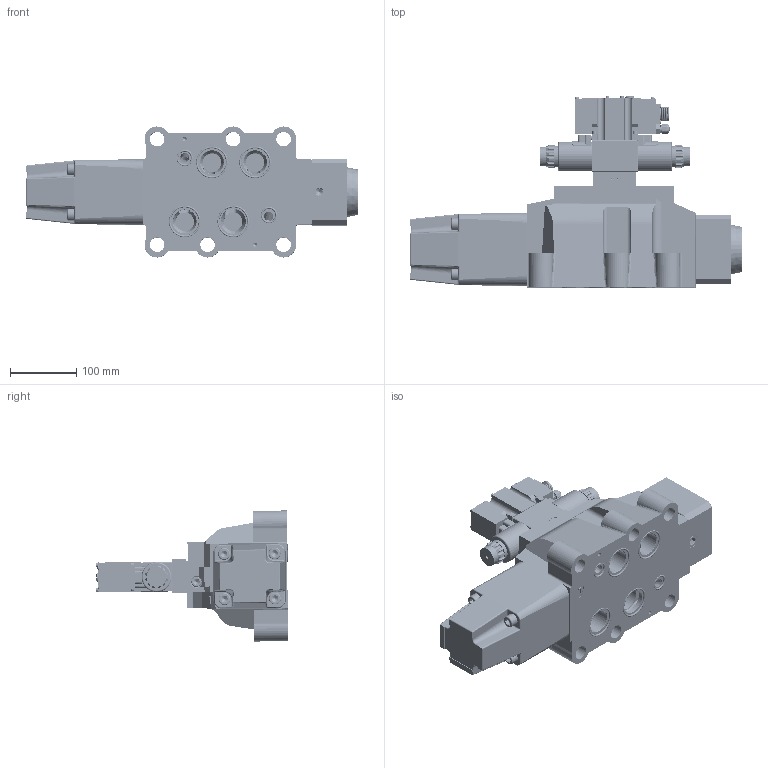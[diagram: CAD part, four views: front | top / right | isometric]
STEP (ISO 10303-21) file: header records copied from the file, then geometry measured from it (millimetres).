
FILE_DESCRIPTION (( 'STEP AP203' ), '1' );
FILE_NAME ('4WRZE32.STEP', '2024-10-09T02:40:09', ( '' ), ( '' ), 'SwSTEP 2.0', 'SolidWorks 2024', '' );
FILE_SCHEMA (( 'CONFIG_CONTROL_DESIGN' ));
Length unit declared in the file: millimetre
Products named in the file (19): 3DREPE6; M12X60_GB_FASTENER_SCREWS_HSHCS M12X60-C; 410269; 10x1.5; ZM6x1; 415036A; M12x120_GB_FASTENER_SCREWS_HSHCS M12X120-C; ZDR6DPO; 19x3; ZG3-8; 42.2x3; 4131201A; 412040; M5X70_GB_FASTENER_SCREWS_HSHCS M5X50-C; 412198A; 411175; 4WRZE32; 66x3; 097483
Assembly tree (36 placements, depth 2):
  4WRZE32
    411175
    66x3  x2
    ZG3-8  x3
    42.2x3  x4
    19x3  x2
    412040
    412198A
    410269
    10x1.5
    M12x120_GB_FASTENER_SCREWS_HSHCS M12X120-C  x4
    M12X60_GB_FASTENER_SCREWS_HSHCS M12X60-C  x4
    ZDR6DPO
    3DREPE6
    M5X70_GB_FASTENER_SCREWS_HSHCS M5X50-C  x4
    4131201A
    415036A  x2
    097483
    ZM6x1  x2
Bounding box: 500 x 289.65 x 197.44 mm (x, y, z)
Volume: 5924562.5 mm3; surface area: 892273.7 mm2
Topology: 86 solids, 86 shells, 4172 faces, 10493 edges, 6527 vertices
Faces by surface type: cylinder 1696, plane 1430, cone 485, bspline 369, torus 174, sphere 18
Entity records: 200983 total; most frequent: CARTESIAN_POINT 113518, ORIENTED_EDGE 18648, DIRECTION 16655, EDGE_CURVE 9324, AXIS2_PLACEMENT_3D 6321, VERTEX_POINT 5916, EDGE_LOOP 4168, LINE 4013
